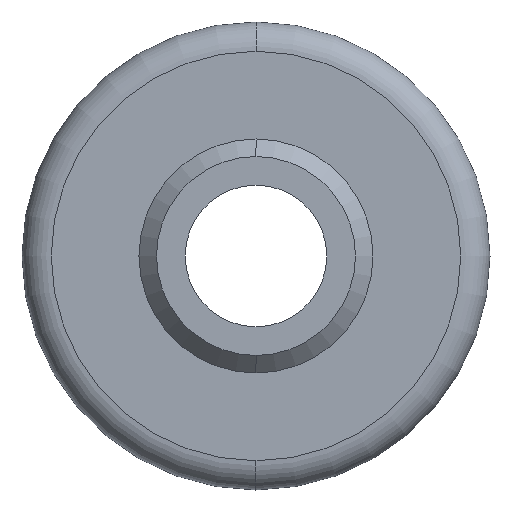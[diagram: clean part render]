
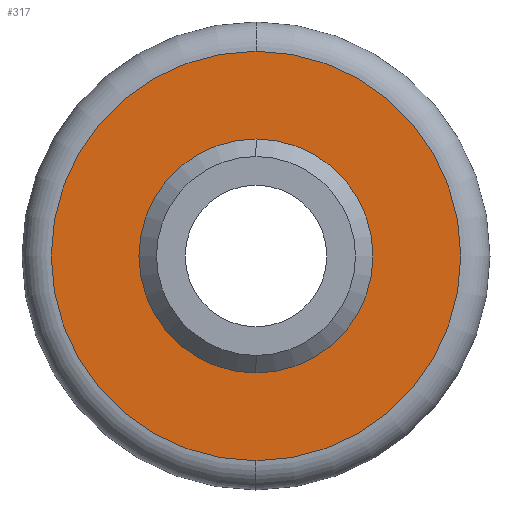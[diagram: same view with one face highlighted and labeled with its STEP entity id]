
A CAD part, left-side view. The second image highlights one B-rep face of the part: STEP entity #317.
In plain terms, the highlighted planar face has unit normal (-1, 0, 0).
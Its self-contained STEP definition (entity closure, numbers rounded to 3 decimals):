
#97 = CARTESIAN_POINT ( 'NONE',  ( -2.5, 0., -10. ) ) ;
#103 = CIRCLE ( 'NONE', #117, 10. ) ;
#115 = CARTESIAN_POINT ( 'NONE',  ( -2.5, 0., 0. ) ) ;
#117 = AXIS2_PLACEMENT_3D ( 'NONE', #115, #120, #119 ) ;
#119 = DIRECTION ( 'NONE',  ( 0., 0., -1. ) ) ;
#120 = DIRECTION ( 'NONE',  ( -1., 0., 0. ) ) ;
#179 = CARTESIAN_POINT ( 'NONE',  ( -2.5, 0., 10. ) ) ;
#191 = AXIS2_PLACEMENT_3D ( 'NONE', #228, #210, #209 ) ;
#209 = DIRECTION ( 'NONE',  ( 0., 0., 1. ) ) ;
#210 = DIRECTION ( 'NONE',  ( -1., 0., 0. ) ) ;
#214 = CIRCLE ( 'NONE', #191, 17.5 ) ;
#228 = CARTESIAN_POINT ( 'NONE',  ( -2.5, 0., 0. ) ) ;
#232 = CARTESIAN_POINT ( 'NONE',  ( -2.5, 0., -17.5 ) ) ;
#260 = CARTESIAN_POINT ( 'NONE',  ( -2.5, 0., 0. ) ) ;
#261 = DIRECTION ( 'NONE',  ( 0., 0., -1. ) ) ;
#264 = DIRECTION ( 'NONE',  ( 0., 0., 1. ) ) ;
#265 = AXIS2_PLACEMENT_3D ( 'NONE', #260, #266, #264 ) ;
#266 = DIRECTION ( 'NONE',  ( -1., 0., 0. ) ) ;
#270 = CIRCLE ( 'NONE', #273, 10. ) ;
#271 = CARTESIAN_POINT ( 'NONE',  ( -2.5, 0., 0. ) ) ;
#272 = CIRCLE ( 'NONE', #265, 17.5 ) ;
#273 = AXIS2_PLACEMENT_3D ( 'NONE', #271, #276, #261 ) ;
#276 = DIRECTION ( 'NONE',  ( -1., 0., 0. ) ) ;
#277 = CARTESIAN_POINT ( 'NONE',  ( -2.5, 0., 17.5 ) ) ;
#313 = FACE_BOUND ( 'NONE', #487, .T. ) ;
#317 = ADVANCED_FACE ( 'NONE', ( #337, #313 ), #425, .F. ) ;
#323 = DIRECTION ( 'NONE',  ( 0., 0., -1. ) ) ;
#337 = FACE_OUTER_BOUND ( 'NONE', #389, .T. ) ;
#379 = DIRECTION ( 'NONE',  ( 1., 0., 0. ) ) ;
#380 = CARTESIAN_POINT ( 'NONE',  ( -2.5, 6.05, 0. ) ) ;
#383 = VERTEX_POINT ( 'NONE', #179 ) ;
#389 = EDGE_LOOP ( 'NONE', ( #446, #486 ) ) ;
#393 = EDGE_CURVE ( 'NONE', #422, #445, #214, .T. ) ;
#397 = AXIS2_PLACEMENT_3D ( 'NONE', #380, #379, #323 ) ;
#411 = VERTEX_POINT ( 'NONE', #97 ) ;
#414 = EDGE_CURVE ( 'NONE', #383, #411, #103, .T. ) ;
#422 = VERTEX_POINT ( 'NONE', #232 ) ;
#425 = PLANE ( 'NONE',  #397 ) ;
#445 = VERTEX_POINT ( 'NONE', #277 ) ;
#446 = ORIENTED_EDGE ( 'NONE', *, *, #447, .T. ) ;
#447 = EDGE_CURVE ( 'NONE', #445, #422, #272, .T. ) ;
#448 = EDGE_CURVE ( 'NONE', #411, #383, #270, .T. ) ;
#451 = ORIENTED_EDGE ( 'NONE', *, *, #448, .F. ) ;
#486 = ORIENTED_EDGE ( 'NONE', *, *, #393, .T. ) ;
#487 = EDGE_LOOP ( 'NONE', ( #488, #451 ) ) ;
#488 = ORIENTED_EDGE ( 'NONE', *, *, #414, .F. ) ;
